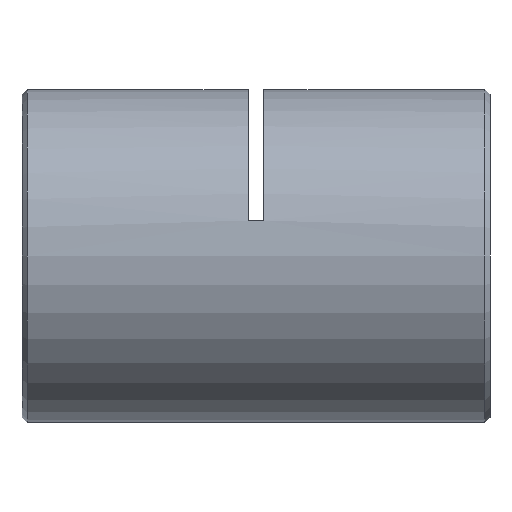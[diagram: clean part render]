
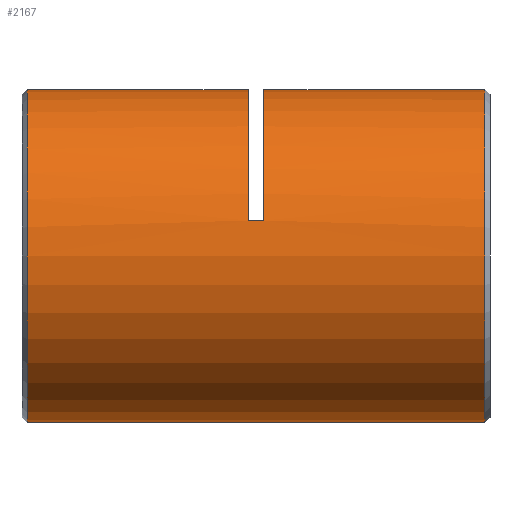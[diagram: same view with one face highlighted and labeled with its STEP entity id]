
A CAD part, left-side view. The second image highlights one B-rep face of the part: STEP entity #2167.
In plain terms, the highlighted cylindrical face has radius 16 mm (diameter 32 mm), a partial arc.
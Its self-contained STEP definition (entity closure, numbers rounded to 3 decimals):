
#79 = ORIENTED_EDGE ( 'NONE', *, *, #4177, .T. ) ;
#208 = VERTEX_POINT ( 'NONE', #1776 ) ;
#234 = DIRECTION ( 'NONE',  ( 0., 1., 0. ) ) ;
#290 = VERTEX_POINT ( 'NONE', #1928 ) ;
#313 = CYLINDRICAL_SURFACE ( 'NONE', #4189, 16. ) ;
#351 = VERTEX_POINT ( 'NONE', #438 ) ;
#438 = CARTESIAN_POINT ( 'NONE',  ( -15.632, 22., 3.413 ) ) ;
#588 = VECTOR ( 'NONE', #3550, 1000. ) ;
#677 = VERTEX_POINT ( 'NONE', #2098 ) ;
#694 = CARTESIAN_POINT ( 'NONE',  ( 0., 0., -16. ) ) ;
#828 = CARTESIAN_POINT ( 'NONE',  ( 0., 0.75, 0. ) ) ;
#839 = EDGE_CURVE ( 'NONE', #975, #3826, #6203, .T. ) ;
#922 = CARTESIAN_POINT ( 'NONE',  ( -15.632, 23.5, 3.413 ) ) ;
#927 = DIRECTION ( 'NONE',  ( 0., 0., 1. ) ) ;
#975 = VERTEX_POINT ( 'NONE', #4908 ) ;
#1004 = DIRECTION ( 'NONE',  ( 0., 1., 0. ) ) ;
#1104 = EDGE_CURVE ( 'NONE', #677, #3397, #4488, .T. ) ;
#1348 = DIRECTION ( 'NONE',  ( 0., 1., 0. ) ) ;
#1471 = ORIENTED_EDGE ( 'NONE', *, *, #4137, .F. ) ;
#1593 = CARTESIAN_POINT ( 'NONE',  ( -15.632, 22.75, 3.413 ) ) ;
#1679 = EDGE_LOOP ( 'NONE', ( #2789, #1798, #3343, #1471, #4145, #1732, #2673, #79 ) ) ;
#1732 = ORIENTED_EDGE ( 'NONE', *, *, #5098, .T. ) ;
#1776 = CARTESIAN_POINT ( 'NONE',  ( 0., 44.75, 16. ) ) ;
#1798 = ORIENTED_EDGE ( 'NONE', *, *, #2144, .T. ) ;
#1878 = EDGE_CURVE ( 'NONE', #290, #208, #4694, .T. ) ;
#1912 = VERTEX_POINT ( 'NONE', #922 ) ;
#1928 = CARTESIAN_POINT ( 'NONE',  ( 0., 23.5, 16. ) ) ;
#2071 = CARTESIAN_POINT ( 'NONE',  ( 0., 44.75, 0. ) ) ;
#2098 = CARTESIAN_POINT ( 'NONE',  ( 0., 0.75, 16. ) ) ;
#2144 = EDGE_CURVE ( 'NONE', #975, #677, #5345, .T. ) ;
#2167 = ADVANCED_FACE ( 'NONE', ( #6340 ), #313, .T. ) ;
#2168 = DIRECTION ( 'NONE',  ( 0., -1., 0. ) ) ;
#2203 = CARTESIAN_POINT ( 'NONE',  ( 0., 0., 16. ) ) ;
#2239 = AXIS2_PLACEMENT_3D ( 'NONE', #2071, #2168, #4540 ) ;
#2597 = CARTESIAN_POINT ( 'NONE',  ( 0., 22., 0. ) ) ;
#2673 = ORIENTED_EDGE ( 'NONE', *, *, #1878, .T. ) ;
#2789 = ORIENTED_EDGE ( 'NONE', *, *, #839, .F. ) ;
#2976 = DIRECTION ( 'NONE',  ( 0., 1., 0. ) ) ;
#3331 = CARTESIAN_POINT ( 'NONE',  ( 0., 44.75, -16. ) ) ;
#3342 = VECTOR ( 'NONE', #234, 1000. ) ;
#3343 = ORIENTED_EDGE ( 'NONE', *, *, #1104, .T. ) ;
#3373 = DIRECTION ( 'NONE',  ( 0., 0., 1. ) ) ;
#3377 = DIRECTION ( 'NONE',  ( 0., 1., 0. ) ) ;
#3397 = VERTEX_POINT ( 'NONE', #4886 ) ;
#3409 = AXIS2_PLACEMENT_3D ( 'NONE', #5833, #3377, #927 ) ;
#3550 = DIRECTION ( 'NONE',  ( 0., 1., 0. ) ) ;
#3599 = DIRECTION ( 'NONE',  ( 0., 1., 0. ) ) ;
#3681 = CIRCLE ( 'NONE', #4517, 16. ) ;
#3826 = VERTEX_POINT ( 'NONE', #3331 ) ;
#4074 = DIRECTION ( 'NONE',  ( 0., 0., 1. ) ) ;
#4111 = CIRCLE ( 'NONE', #3409, 16. ) ;
#4137 = EDGE_CURVE ( 'NONE', #351, #3397, #3681, .T. ) ;
#4145 = ORIENTED_EDGE ( 'NONE', *, *, #4889, .T. ) ;
#4177 = EDGE_CURVE ( 'NONE', #208, #3826, #5653, .T. ) ;
#4189 = AXIS2_PLACEMENT_3D ( 'NONE', #6220, #2976, #5987 ) ;
#4488 = LINE ( 'NONE', #5916, #5334 ) ;
#4517 = AXIS2_PLACEMENT_3D ( 'NONE', #2597, #5609, #4074 ) ;
#4540 = DIRECTION ( 'NONE',  ( 0., 0., -1. ) ) ;
#4611 = AXIS2_PLACEMENT_3D ( 'NONE', #828, #1348, #3373 ) ;
#4694 = LINE ( 'NONE', #2203, #4838 ) ;
#4838 = VECTOR ( 'NONE', #3599, 1000. ) ;
#4886 = CARTESIAN_POINT ( 'NONE',  ( 0., 22., 16. ) ) ;
#4889 = EDGE_CURVE ( 'NONE', #351, #1912, #5013, .T. ) ;
#4908 = CARTESIAN_POINT ( 'NONE',  ( 0., 0.75, -16. ) ) ;
#5013 = LINE ( 'NONE', #1593, #588 ) ;
#5098 = EDGE_CURVE ( 'NONE', #1912, #290, #4111, .T. ) ;
#5334 = VECTOR ( 'NONE', #1004, 1000. ) ;
#5345 = CIRCLE ( 'NONE', #4611, 16. ) ;
#5609 = DIRECTION ( 'NONE',  ( 0., 1., 0. ) ) ;
#5653 = CIRCLE ( 'NONE', #2239, 16. ) ;
#5833 = CARTESIAN_POINT ( 'NONE',  ( 0., 23.5, 0. ) ) ;
#5916 = CARTESIAN_POINT ( 'NONE',  ( 0., 0., 16. ) ) ;
#5987 = DIRECTION ( 'NONE',  ( 0., 0., 1. ) ) ;
#6203 = LINE ( 'NONE', #694, #3342 ) ;
#6220 = CARTESIAN_POINT ( 'NONE',  ( 0., 0., 0. ) ) ;
#6340 = FACE_OUTER_BOUND ( 'NONE', #1679, .T. ) ;
